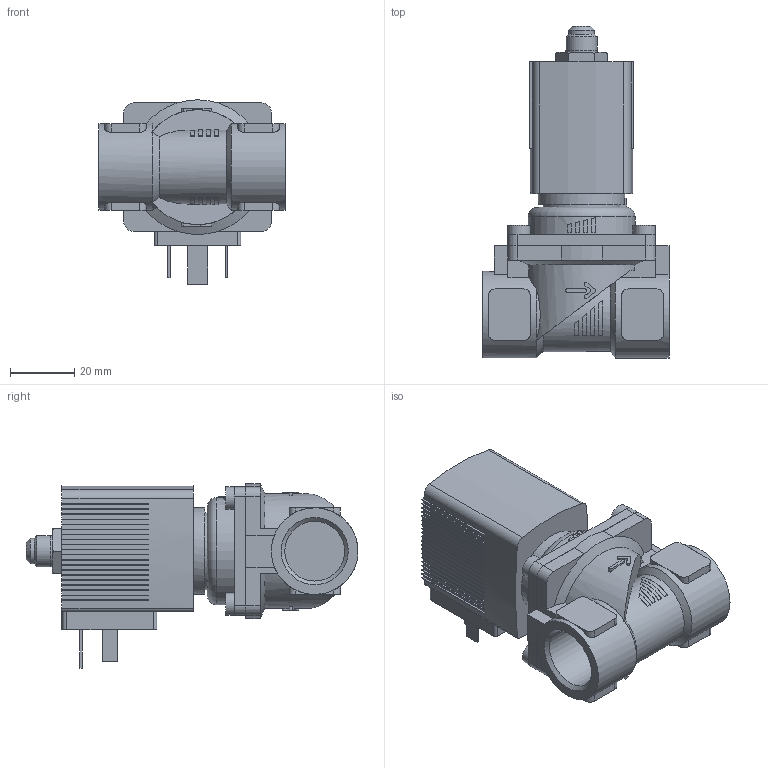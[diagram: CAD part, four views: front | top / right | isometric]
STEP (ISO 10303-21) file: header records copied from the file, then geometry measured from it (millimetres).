
FILE_DESCRIPTION(/* description */ ('STEP AP214'),/* implementation_level */ '2;1');
FILE_NAME(/* name */ '6281-310665-2_2-Way_Solenoid_Valve__Servo-assisted__General_Purpose',/* time_stamp */ '2024-05-14T21:33:06+02:00',/* author */ ('License CC BY-ND 4.0'),/* organization */ ('CADENAS'),/* preprocessor_version */ 'ST-DEVELOPER v19.3',/* originating_system */ 'PARTsolutions',/* authorisation */ ' ');
FILE_SCHEMA (('AUTOMOTIVE_DESIGN {1 0 10303 214 3 1 1}'));
Length unit declared in the file: millimetre
Products named in the file (4): 6281-310665-2/2-Way Solenoid Valve, Servo-assisted, General Purpose; 5281ev130MS2/2-Wege-Magnetventil mit Servomembran-Deckel  MX62 ; 6213-13G1/2MS-Gehaeuse-kurz; AC10ex-5OO-Gewinde-Coil
Assembly tree (3 placements, depth 2):
  6281-310665-2/2-Way Solenoid Valve, Servo-assisted, General Purpose
    5281ev130MS2/2-Wege-Magnetventil mit Servomembran-Deckel  MX62 
    6213-13G1/2MS-Gehaeuse-kurz
    AC10ex-5OO-Gewinde-Coil
Bounding box: 58 x 103.5 x 57.5 mm (x, y, z)
Volume: 110033.4 mm3; surface area: 28491.6 mm2
Topology: 3 solids, 3 shells, 519 faces, 1416 edges, 933 vertices
Faces by surface type: plane 419, cylinder 82, cone 17, torus 1
Full cylindrical faces by diameter (mm): 2.013 x1, 2.7 x1, 7 x4, 8 x1, 9.73 x1, 9.74 x1, 18.631 x2, 27 x2, 33.4 x1
Entity records: 18780 total; most frequent: CARTESIAN_POINT 3062, ORIENTED_EDGE 2768, DIRECTION 2682, EDGE_CURVE 1384, LINE 1008, VECTOR 1008, VERTEX_POINT 922, AXIS2_PLACEMENT_3D 837
